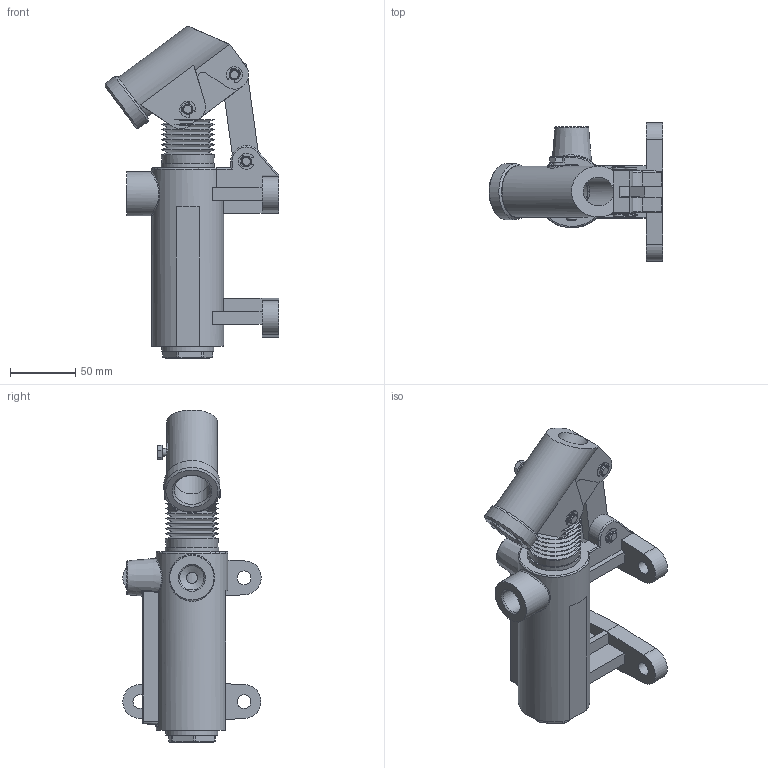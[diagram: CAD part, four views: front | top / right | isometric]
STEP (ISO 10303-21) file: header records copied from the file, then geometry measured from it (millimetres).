
FILE_DESCRIPTION(/* description */ ('Unknown'),/* implementation_level */ '2;1');
FILE_NAME(/* name */ 'HP70ES',/* time_stamp */ '2024-11-27T15:11:08+01:00',/* author */ ('Unknown'),/* organization */ ('Unknown'),/* preprocessor_version */ 'ST-DEVELOPER v19.4',/* originating_system */ 'Solid Edge',/* authorisation */ 'Unknown');
FILE_SCHEMA (('AUTOMOTIVE_DESIGN {1 0 10303 214 3 1 1}'));
Length unit declared in the file: millimetre
Products named in the file (1): HP70ES
Bounding box: 133.48 x 106.11 x 254.79 mm (x, y, z)
Volume: 585767.2 mm3; surface area: 164798 mm2
Topology: 6 solids, 6 shells, 534 faces, 1366 edges, 869 vertices
Faces by surface type: plane 226, cylinder 186, cone 73, torus 26, bspline 21, sphere 2
Full cylindrical faces by diameter (mm): 1.7 x2, 5 x1, 5.1 x2, 5.994 x3, 6 x2, 7.792 x6, 8 x3, 8.092 x2, 8.1 x5, 8.4 x1, 8.6 x1, 8.7 x1, 9.99 x3, 10.6 x4, 14.8 x1, 15 x1, 15.2 x1, 15.3 x2, 15.8 x1, 16 x1, 17 x2, 17.8 x1, 18.631 x3, 22 x1, 24.8 x1, 24.94 x1, 25 x2, 27.5 x2, 29 x2, 29.7 x1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
Entity records: 19625 total; most frequent: CARTESIAN_POINT 4796, DIRECTION 2533, ORIENTED_EDGE 2242, EDGE_CURVE 1121, AXIS2_PLACEMENT_3D 1025, VERTEX_POINT 791, FACE_BOUND 780, EDGE_LOOP 779
